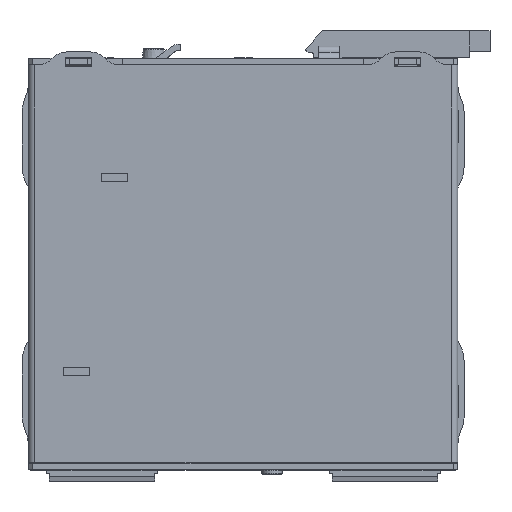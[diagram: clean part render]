
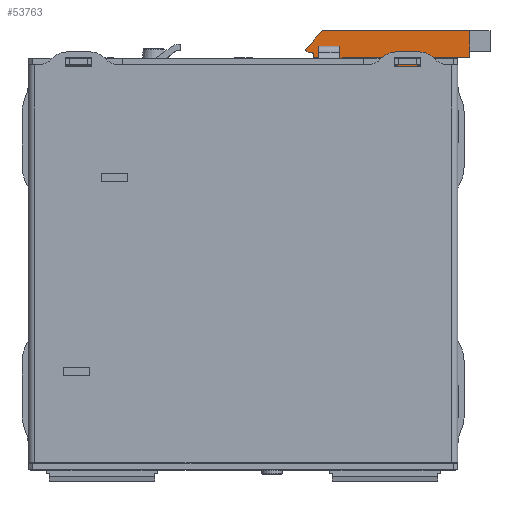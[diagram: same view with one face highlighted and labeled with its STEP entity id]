
A CAD part, top view. The second image highlights one B-rep face of the part: STEP entity #53763.
In plain terms, the highlighted planar face has unit normal (0, 0, 1) as drawn and (0, -1, 0) by its records, which use the part's own axes.
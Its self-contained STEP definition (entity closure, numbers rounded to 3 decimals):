
#53140=CARTESIAN_POINT('',(20.575,-10.0,0.0));
#53141=VERTEX_POINT('',#53140);
#53148=CARTESIAN_POINT('',(20.575,-10.0,-1.0));
#53149=VERTEX_POINT('',#53148);
#53150=CARTESIAN_POINT('',(20.575,-10.0,-1.0));
#53151=DIRECTION('',(0.0,0.0,1.0));
#53152=VECTOR('',#53151,1.0);
#53153=LINE('',#53150,#53152);
#53154=EDGE_CURVE('',#53149,#53141,#53153,.T.);
#53179=CARTESIAN_POINT('',(21.93,-10.0,-1.263));
#53180=VERTEX_POINT('',#53179);
#53181=CARTESIAN_POINT('',(21.93,-10.0,-1.263));
#53182=DIRECTION('',(-0.982,0.0,0.191));
#53183=VECTOR('',#53182,1.38);
#53184=LINE('',#53181,#53183);
#53185=EDGE_CURVE('',#53180,#53149,#53184,.T.);
#53210=CARTESIAN_POINT('',(22.575,-10.0,-1.805));
#53211=VERTEX_POINT('',#53210);
#53212=CARTESIAN_POINT('',(22.575,-10.0,-1.805));
#53213=DIRECTION('',(-0.766,0.0,0.643));
#53214=VECTOR('',#53213,0.842);
#53215=LINE('',#53212,#53214);
#53216=EDGE_CURVE('',#53211,#53180,#53215,.T.);
#53242=CARTESIAN_POINT('',(22.325,-10.0,-2.169));
#53243=VERTEX_POINT('',#53242);
#53244=CARTESIAN_POINT('',(21.069,-10.,-1.037));
#53245=DIRECTION('',(0.,-1.0,0.));
#53246=DIRECTION('',(0.743,0.,-0.669));
#53247=AXIS2_PLACEMENT_3D('',#53244,#53245,#53246);
#53248=CIRCLE('',#53247,1.69);
#53249=EDGE_CURVE('',#53243,#53211,#53248,.T.);
#53306=CARTESIAN_POINT('',(18.425,-10.0,-6.5));
#53307=VERTEX_POINT('',#53306);
#53308=CARTESIAN_POINT('',(18.425,-10.0,-6.5));
#53309=DIRECTION('',(0.669,0.,0.743));
#53310=VECTOR('',#53309,5.828);
#53311=LINE('',#53308,#53310);
#53312=EDGE_CURVE('',#53307,#53243,#53311,.T.);
#53472=CARTESIAN_POINT('',(-17.575,-10.,-6.5));
#53473=VERTEX_POINT('',#53472);
#53474=CARTESIAN_POINT('',(-17.575,-10.,-6.5));
#53475=DIRECTION('',(1.0,0.0,0.0));
#53476=VECTOR('',#53475,36.);
#53477=LINE('',#53474,#53476);
#53478=EDGE_CURVE('',#53473,#53307,#53477,.T.);
#53672=CARTESIAN_POINT('',(-22.575,-10.,0.0));
#53673=DIRECTION('',(0.0,-1.0,0.0));
#53674=DIRECTION('',(0.0,0.0,-1.0));
#53675=AXIS2_PLACEMENT_3D('',#53672,#53673,#53674);
#53676=PLANE('',#53675);
#53677=ORIENTED_EDGE('',*,*,#53312,.T.);
#53678=ORIENTED_EDGE('',*,*,#53249,.T.);
#53679=ORIENTED_EDGE('',*,*,#53216,.T.);
#53680=ORIENTED_EDGE('',*,*,#53185,.T.);
#53681=ORIENTED_EDGE('',*,*,#53154,.T.);
#53682=CARTESIAN_POINT('',(18.575,-10.,0.0));
#53683=VERTEX_POINT('',#53682);
#53684=CARTESIAN_POINT('',(20.575,-10.0,0.0));
#53685=DIRECTION('',(-1.0,0.0,0.0));
#53686=VECTOR('',#53685,2.0);
#53687=LINE('',#53684,#53686);
#53688=EDGE_CURVE('',#53141,#53683,#53687,.T.);
#53689=ORIENTED_EDGE('',*,*,#53688,.T.);
#53690=CARTESIAN_POINT('',(18.575,-10.,3.5));
#53691=VERTEX_POINT('',#53690);
#53692=CARTESIAN_POINT('',(18.575,-10.,0.0));
#53693=DIRECTION('',(0.0,0.0,1.0));
#53694=VECTOR('',#53693,3.5);
#53695=LINE('',#53692,#53694);
#53696=EDGE_CURVE('',#53683,#53691,#53695,.T.);
#53697=ORIENTED_EDGE('',*,*,#53696,.T.);
#53698=CARTESIAN_POINT('',(13.575,-10.,3.5));
#53699=VERTEX_POINT('',#53698);
#53700=CARTESIAN_POINT('',(13.575,-10.0,3.5));
#53701=DIRECTION('',(1.0,0.0,0.0));
#53702=VECTOR('',#53701,5.);
#53703=LINE('',#53700,#53702);
#53704=EDGE_CURVE('',#53699,#53691,#53703,.T.);
#53705=ORIENTED_EDGE('',*,*,#53704,.F.);
#53706=CARTESIAN_POINT('',(13.575,-10.,0.0));
#53707=VERTEX_POINT('',#53706);
#53708=CARTESIAN_POINT('',(13.575,-10.,0.0));
#53709=DIRECTION('',(0.0,0.0,1.0));
#53710=VECTOR('',#53709,3.5);
#53711=LINE('',#53708,#53710);
#53712=EDGE_CURVE('',#53707,#53699,#53711,.T.);
#53713=ORIENTED_EDGE('',*,*,#53712,.F.);
#53714=CARTESIAN_POINT('',(0.075,-10.,0.0));
#53715=VERTEX_POINT('',#53714);
#53716=CARTESIAN_POINT('',(13.575,-10.0,0.0));
#53717=DIRECTION('',(-1.0,0.0,0.0));
#53718=VECTOR('',#53717,13.5);
#53719=LINE('',#53716,#53718);
#53720=EDGE_CURVE('',#53707,#53715,#53719,.T.);
#53721=ORIENTED_EDGE('',*,*,#53720,.T.);
#53722=CARTESIAN_POINT('',(0.075,-10.,3.5));
#53723=VERTEX_POINT('',#53722);
#53724=CARTESIAN_POINT('',(0.075,-10.,0.0));
#53725=DIRECTION('',(0.0,0.0,1.0));
#53726=VECTOR('',#53725,3.5);
#53727=LINE('',#53724,#53726);
#53728=EDGE_CURVE('',#53715,#53723,#53727,.T.);
#53729=ORIENTED_EDGE('',*,*,#53728,.T.);
#53730=CARTESIAN_POINT('',(-4.925,-10.,3.5));
#53731=VERTEX_POINT('',#53730);
#53732=CARTESIAN_POINT('',(-4.925,-10.,3.5));
#53733=DIRECTION('',(1.0,0.0,0.0));
#53734=VECTOR('',#53733,5.0);
#53735=LINE('',#53732,#53734);
#53736=EDGE_CURVE('',#53731,#53723,#53735,.T.);
#53737=ORIENTED_EDGE('',*,*,#53736,.F.);
#53738=CARTESIAN_POINT('',(-4.925,-10.,0.0));
#53739=VERTEX_POINT('',#53738);
#53740=CARTESIAN_POINT('',(-4.925,-10.,0.0));
#53741=DIRECTION('',(0.0,0.0,1.0));
#53742=VECTOR('',#53741,3.5);
#53743=LINE('',#53740,#53742);
#53744=EDGE_CURVE('',#53739,#53731,#53743,.T.);
#53745=ORIENTED_EDGE('',*,*,#53744,.F.);
#53746=CARTESIAN_POINT('',(-17.575,-10.,0.0));
#53747=VERTEX_POINT('',#53746);
#53748=CARTESIAN_POINT('',(-4.925,-10.,0.0));
#53749=DIRECTION('',(-1.0,0.0,0.0));
#53750=VECTOR('',#53749,12.65);
#53751=LINE('',#53748,#53750);
#53752=EDGE_CURVE('',#53739,#53747,#53751,.T.);
#53753=ORIENTED_EDGE('',*,*,#53752,.T.);
#53754=CARTESIAN_POINT('',(-17.575,-10.,0.0));
#53755=DIRECTION('',(0.0,0.0,-1.0));
#53756=VECTOR('',#53755,6.5);
#53757=LINE('',#53754,#53756);
#53758=EDGE_CURVE('',#53747,#53473,#53757,.T.);
#53759=ORIENTED_EDGE('',*,*,#53758,.T.);
#53760=ORIENTED_EDGE('',*,*,#53478,.T.);
#53761=EDGE_LOOP('',(#53677,#53678,#53679,#53680,#53681,#53689,#53697,#53705,#53713,#53721,#53729,#53737,#53745,#53753,#53759,#53760));
#53762=FACE_OUTER_BOUND('',#53761,.T.);
#53763=ADVANCED_FACE('',(#53762),#53676,.T.);
